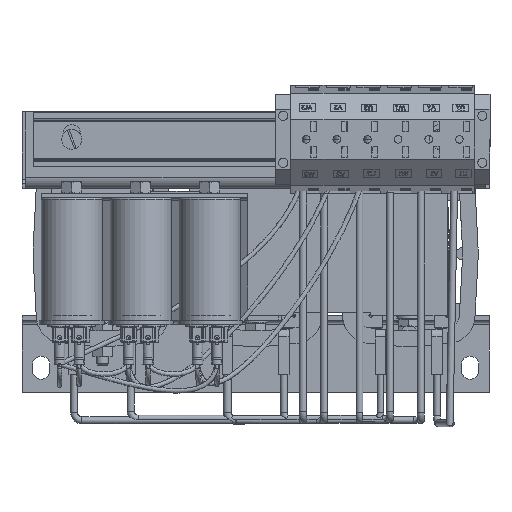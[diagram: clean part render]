
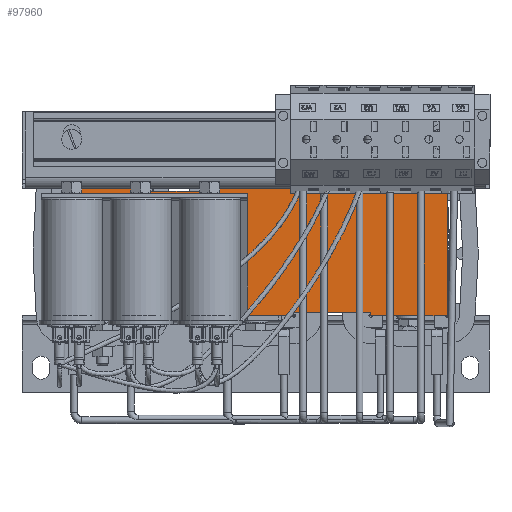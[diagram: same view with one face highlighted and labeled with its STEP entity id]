
A CAD part, front view. The second image highlights one B-rep face of the part: STEP entity #97960.
In plain terms, the highlighted planar face has unit normal (0, -1, 0).
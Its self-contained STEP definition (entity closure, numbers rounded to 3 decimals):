
#41070=CARTESIAN_POINT('',(-126.972,-85.889,-2.0));
#41071=VERTEX_POINT('',#41070);
#41072=CARTESIAN_POINT('',(-86.972,-85.889,-2.));
#41073=VERTEX_POINT('',#41072);
#41074=CARTESIAN_POINT('',(-126.972,-85.889,-2.0));
#41075=DIRECTION('',(1.0,0.0,0.0));
#41076=VECTOR('',#41075,40.);
#41077=LINE('',#41074,#41076);
#41078=EDGE_CURVE('',#41071,#41073,#41077,.T.);
#41096=CARTESIAN_POINT('',(-176.972,-85.889,-2.0));
#41097=VERTEX_POINT('',#41096);
#41104=CARTESIAN_POINT('',(-226.972,-85.889,-2.0));
#41105=VERTEX_POINT('',#41104);
#41106=CARTESIAN_POINT('',(-226.972,-85.889,-2.0));
#41107=DIRECTION('',(1.0,0.0,0.0));
#41108=VECTOR('',#41107,50.0);
#41109=LINE('',#41106,#41108);
#41110=EDGE_CURVE('',#41105,#41097,#41109,.T.);
#41792=CARTESIAN_POINT('',(-76.972,-85.889,-2.0));
#41793=VERTEX_POINT('',#41792);
#41800=CARTESIAN_POINT('',(-86.972,-85.889,-2.0));
#41801=DIRECTION('',(1.0,0.0,0.0));
#41802=VECTOR('',#41801,10.);
#41803=LINE('',#41800,#41802);
#41804=EDGE_CURVE('',#41073,#41793,#41803,.T.);
#80428=CARTESIAN_POINT('',(23.028,-85.889,81.1));
#80429=VERTEX_POINT('',#80428);
#80465=CARTESIAN_POINT('',(-226.972,-85.889,81.1));
#80466=VERTEX_POINT('',#80465);
#80473=CARTESIAN_POINT('',(-176.972,-85.889,81.1));
#80474=VERTEX_POINT('',#80473);
#80475=CARTESIAN_POINT('',(-176.972,-85.889,81.1));
#80476=DIRECTION('',(-1.0,0.0,0.0));
#80477=VECTOR('',#80476,50.0);
#80478=LINE('',#80475,#80477);
#80479=EDGE_CURVE('',#80474,#80466,#80478,.T.);
#80495=CARTESIAN_POINT('',(-126.972,-85.889,81.1));
#80496=VERTEX_POINT('',#80495);
#80503=CARTESIAN_POINT('',(-76.972,-85.889,81.1));
#80504=VERTEX_POINT('',#80503);
#80505=CARTESIAN_POINT('',(-76.972,-85.889,81.1));
#80506=DIRECTION('',(-1.0,0.0,0.0));
#80507=VECTOR('',#80506,50.0);
#80508=LINE('',#80505,#80507);
#80509=EDGE_CURVE('',#80504,#80496,#80508,.T.);
#80527=CARTESIAN_POINT('',(-26.972,-85.889,81.1));
#80528=VERTEX_POINT('',#80527);
#80535=CARTESIAN_POINT('',(23.028,-85.889,81.1));
#80536=DIRECTION('',(-1.0,0.0,0.0));
#80537=VECTOR('',#80536,50.);
#80538=LINE('',#80535,#80537);
#80539=EDGE_CURVE('',#80429,#80528,#80538,.T.);
#82347=CARTESIAN_POINT('',(23.028,-85.889,-2.0));
#82348=VERTEX_POINT('',#82347);
#82355=CARTESIAN_POINT('',(-26.972,-85.889,-2.0));
#82356=VERTEX_POINT('',#82355);
#82357=CARTESIAN_POINT('',(-26.972,-85.889,-2.0));
#82358=DIRECTION('',(1.0,0.0,0.0));
#82359=VECTOR('',#82358,50.);
#82360=LINE('',#82357,#82359);
#82361=EDGE_CURVE('',#82356,#82348,#82360,.T.);
#82726=CARTESIAN_POINT('',(-26.972,-85.889,79.1));
#82727=VERTEX_POINT('',#82726);
#82734=CARTESIAN_POINT('',(-26.972,-85.889,81.1));
#82735=DIRECTION('',(0.0,0.0,-1.0));
#82736=VECTOR('',#82735,2.0);
#82737=LINE('',#82734,#82736);
#82738=EDGE_CURVE('',#80528,#82727,#82737,.T.);
#82765=CARTESIAN_POINT('',(-26.972,-85.889,0.));
#82766=VERTEX_POINT('',#82765);
#82767=CARTESIAN_POINT('',(-26.972,-85.889,0.));
#82768=DIRECTION('',(0.0,0.0,-1.0));
#82769=VECTOR('',#82768,2.0);
#82770=LINE('',#82767,#82769);
#82771=EDGE_CURVE('',#82766,#82356,#82770,.T.);
#86022=CARTESIAN_POINT('',(-76.972,-85.889,79.1));
#86023=VERTEX_POINT('',#86022);
#86030=CARTESIAN_POINT('',(-76.972,-85.889,79.1));
#86031=DIRECTION('',(1.0,0.0,0.0));
#86032=VECTOR('',#86031,50.0);
#86033=LINE('',#86030,#86032);
#86034=EDGE_CURVE('',#86023,#82727,#86033,.T.);
#88194=CARTESIAN_POINT('',(-126.972,-85.889,79.1));
#88195=VERTEX_POINT('',#88194);
#88212=CARTESIAN_POINT('',(-176.972,-85.889,79.1));
#88213=VERTEX_POINT('',#88212);
#88220=CARTESIAN_POINT('',(-176.972,-85.889,79.1));
#88221=DIRECTION('',(1.0,0.0,0.0));
#88222=VECTOR('',#88221,50.);
#88223=LINE('',#88220,#88222);
#88224=EDGE_CURVE('',#88213,#88195,#88223,.T.);
#88559=CARTESIAN_POINT('',(-76.972,-85.889,0.));
#88560=VERTEX_POINT('',#88559);
#88561=CARTESIAN_POINT('',(-76.972,-85.889,0.));
#88562=DIRECTION('',(1.0,0.0,0.0));
#88563=VECTOR('',#88562,50.0);
#88564=LINE('',#88561,#88563);
#88565=EDGE_CURVE('',#88560,#82766,#88564,.T.);
#88598=CARTESIAN_POINT('',(-126.972,-85.889,81.1));
#88599=DIRECTION('',(0.0,0.0,-1.0));
#88600=VECTOR('',#88599,2.0);
#88601=LINE('',#88598,#88600);
#88602=EDGE_CURVE('',#80496,#88195,#88601,.T.);
#88630=CARTESIAN_POINT('',(-126.972,-85.889,0.));
#88631=VERTEX_POINT('',#88630);
#88632=CARTESIAN_POINT('',(-126.972,-85.889,0.));
#88633=DIRECTION('',(0.0,0.0,-1.0));
#88634=VECTOR('',#88633,2.0);
#88635=LINE('',#88632,#88634);
#88636=EDGE_CURVE('',#88631,#41071,#88635,.T.);
#93965=CARTESIAN_POINT('',(-176.972,-85.889,0.));
#93966=VERTEX_POINT('',#93965);
#93967=CARTESIAN_POINT('',(-176.972,-85.889,0.));
#93968=DIRECTION('',(1.0,0.0,0.0));
#93969=VECTOR('',#93968,50.);
#93970=LINE('',#93967,#93969);
#93971=EDGE_CURVE('',#93966,#88631,#93970,.T.);
#94006=CARTESIAN_POINT('',(-226.972,-85.889,81.1));
#94007=DIRECTION('',(0.0,0.0,-1.0));
#94008=VECTOR('',#94007,83.1);
#94009=LINE('',#94006,#94008);
#94010=EDGE_CURVE('',#80466,#41105,#94009,.T.);
#97907=CARTESIAN_POINT('',(-226.972,-85.889,79.1));
#97908=DIRECTION('',(0.0,-1.0,0.0));
#97909=DIRECTION('',(0.0,0.0,-1.0));
#97910=AXIS2_PLACEMENT_3D('',#97907,#97908,#97909);
#97911=PLANE('',#97910);
#97912=ORIENTED_EDGE('',*,*,#93971,.T.);
#97913=ORIENTED_EDGE('',*,*,#88636,.T.);
#97914=ORIENTED_EDGE('',*,*,#41078,.T.);
#97915=ORIENTED_EDGE('',*,*,#41804,.T.);
#97916=CARTESIAN_POINT('',(-76.972,-85.889,0.));
#97917=DIRECTION('',(0.0,0.0,-1.0));
#97918=VECTOR('',#97917,2.0);
#97919=LINE('',#97916,#97918);
#97920=EDGE_CURVE('',#88560,#41793,#97919,.T.);
#97921=ORIENTED_EDGE('',*,*,#97920,.F.);
#97922=ORIENTED_EDGE('',*,*,#88565,.T.);
#97923=ORIENTED_EDGE('',*,*,#82771,.T.);
#97924=ORIENTED_EDGE('',*,*,#82361,.T.);
#97925=CARTESIAN_POINT('',(23.028,-85.889,81.1));
#97926=DIRECTION('',(0.0,0.0,-1.0));
#97927=VECTOR('',#97926,83.1);
#97928=LINE('',#97925,#97927);
#97929=EDGE_CURVE('',#80429,#82348,#97928,.T.);
#97930=ORIENTED_EDGE('',*,*,#97929,.F.);
#97931=ORIENTED_EDGE('',*,*,#80539,.T.);
#97932=ORIENTED_EDGE('',*,*,#82738,.T.);
#97933=ORIENTED_EDGE('',*,*,#86034,.F.);
#97934=CARTESIAN_POINT('',(-76.972,-85.889,81.1));
#97935=DIRECTION('',(0.0,0.0,-1.0));
#97936=VECTOR('',#97935,2.0);
#97937=LINE('',#97934,#97936);
#97938=EDGE_CURVE('',#80504,#86023,#97937,.T.);
#97939=ORIENTED_EDGE('',*,*,#97938,.F.);
#97940=ORIENTED_EDGE('',*,*,#80509,.T.);
#97941=ORIENTED_EDGE('',*,*,#88602,.T.);
#97942=ORIENTED_EDGE('',*,*,#88224,.F.);
#97943=CARTESIAN_POINT('',(-176.972,-85.889,81.1));
#97944=DIRECTION('',(0.0,0.0,-1.0));
#97945=VECTOR('',#97944,2.0);
#97946=LINE('',#97943,#97945);
#97947=EDGE_CURVE('',#80474,#88213,#97946,.T.);
#97948=ORIENTED_EDGE('',*,*,#97947,.F.);
#97949=ORIENTED_EDGE('',*,*,#80479,.T.);
#97950=ORIENTED_EDGE('',*,*,#94010,.T.);
#97951=ORIENTED_EDGE('',*,*,#41110,.T.);
#97952=CARTESIAN_POINT('',(-176.972,-85.889,0.));
#97953=DIRECTION('',(0.0,0.0,-1.0));
#97954=VECTOR('',#97953,2.0);
#97955=LINE('',#97952,#97954);
#97956=EDGE_CURVE('',#93966,#41097,#97955,.T.);
#97957=ORIENTED_EDGE('',*,*,#97956,.F.);
#97958=EDGE_LOOP('',(#97912,#97913,#97914,#97915,#97921,#97922,#97923,#97924,#97930,#97931,#97932,#97933,#97939,#97940,#97941,#97942,#97948,#97949,#97950,#97951,#97957));
#97959=FACE_OUTER_BOUND('',#97958,.T.);
#97960=ADVANCED_FACE('',(#97959),#97911,.T.);
